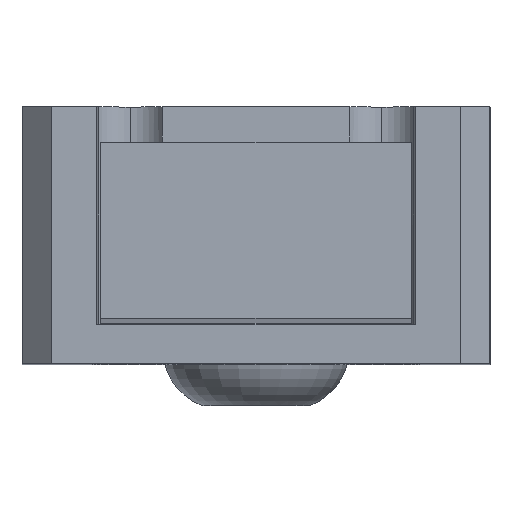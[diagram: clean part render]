
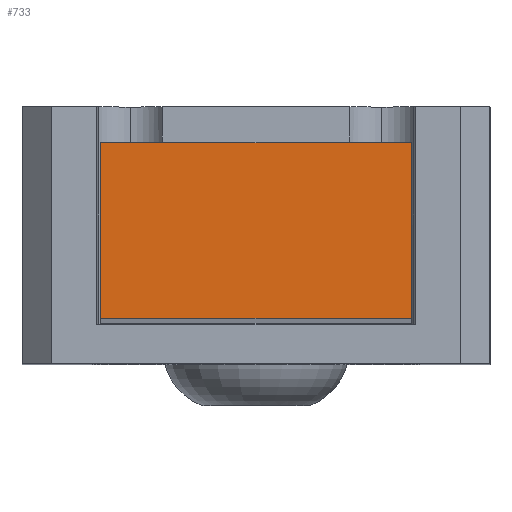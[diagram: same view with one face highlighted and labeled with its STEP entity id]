
A CAD part, top view. The second image highlights one B-rep face of the part: STEP entity #733.
In plain terms, the highlighted planar face has unit normal (0, 0, 1).
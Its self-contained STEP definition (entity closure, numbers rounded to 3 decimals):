
#39 = DIRECTION ( 'NONE',  ( 1., 0., 0. ) ) ;
#119 = ORIENTED_EDGE ( 'NONE', *, *, #668, .T. ) ;
#140 = DIRECTION ( 'NONE',  ( 0., -1., 0. ) ) ;
#152 = VERTEX_POINT ( 'NONE', #1989 ) ;
#204 = CARTESIAN_POINT ( 'NONE',  ( -2.65, 1.5, 53.418 ) ) ;
#309 = ORIENTED_EDGE ( 'NONE', *, *, #1349, .T. ) ;
#456 = ORIENTED_EDGE ( 'NONE', *, *, #1220, .T. ) ;
#462 = ORIENTED_EDGE ( 'NONE', *, *, #2167, .T. ) ;
#492 = VECTOR ( 'NONE', #800, 1000. ) ;
#537 = CARTESIAN_POINT ( 'NONE',  ( -2.65, -1.5, 53.418 ) ) ;
#623 = VERTEX_POINT ( 'NONE', #2320 ) ;
#668 = EDGE_CURVE ( 'NONE', #1459, #152, #2405, .T. ) ;
#733 = ADVANCED_FACE ( 'NONE', ( #1001 ), #2080, .T. ) ;
#800 = DIRECTION ( 'NONE',  ( 0., 1., 0. ) ) ;
#830 = LINE ( 'NONE', #537, #1782 ) ;
#917 = CARTESIAN_POINT ( 'NONE',  ( -2.65, -1.5, 53.418 ) ) ;
#1001 = FACE_OUTER_BOUND ( 'NONE', #1364, .T. ) ;
#1097 = AXIS2_PLACEMENT_3D ( 'NONE', #1922, #1791, #1769 ) ;
#1140 = VERTEX_POINT ( 'NONE', #917 ) ;
#1162 = LINE ( 'NONE', #204, #1307 ) ;
#1220 = EDGE_CURVE ( 'NONE', #623, #1140, #1162, .T. ) ;
#1228 = VECTOR ( 'NONE', #2444, 1000. ) ;
#1307 = VECTOR ( 'NONE', #140, 1000. ) ;
#1349 = EDGE_CURVE ( 'NONE', #1140, #1459, #830, .T. ) ;
#1364 = EDGE_LOOP ( 'NONE', ( #119, #462, #456, #309 ) ) ;
#1459 = VERTEX_POINT ( 'NONE', #1994 ) ;
#1614 = CARTESIAN_POINT ( 'NONE',  ( 2.65, 1.5, 53.418 ) ) ;
#1769 = DIRECTION ( 'NONE',  ( 1., 0., 0. ) ) ;
#1782 = VECTOR ( 'NONE', #39, 1000. ) ;
#1791 = DIRECTION ( 'NONE',  ( 0., 0., 1. ) ) ;
#1922 = CARTESIAN_POINT ( 'NONE',  ( 2.65, -1.5, 53.418 ) ) ;
#1989 = CARTESIAN_POINT ( 'NONE',  ( 2.65, 1.5, 53.418 ) ) ;
#1994 = CARTESIAN_POINT ( 'NONE',  ( 2.65, -1.5, 53.418 ) ) ;
#2080 = PLANE ( 'NONE',  #1097 ) ;
#2167 = EDGE_CURVE ( 'NONE', #152, #623, #2299, .T. ) ;
#2171 = CARTESIAN_POINT ( 'NONE',  ( 2.65, 1.5, 53.418 ) ) ;
#2299 = LINE ( 'NONE', #2171, #1228 ) ;
#2320 = CARTESIAN_POINT ( 'NONE',  ( -2.65, 1.5, 53.418 ) ) ;
#2405 = LINE ( 'NONE', #1614, #492 ) ;
#2444 = DIRECTION ( 'NONE',  ( -1., 0., 0. ) ) ;
